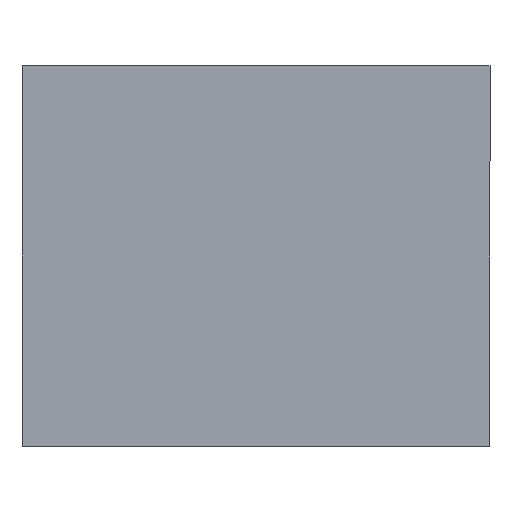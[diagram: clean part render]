
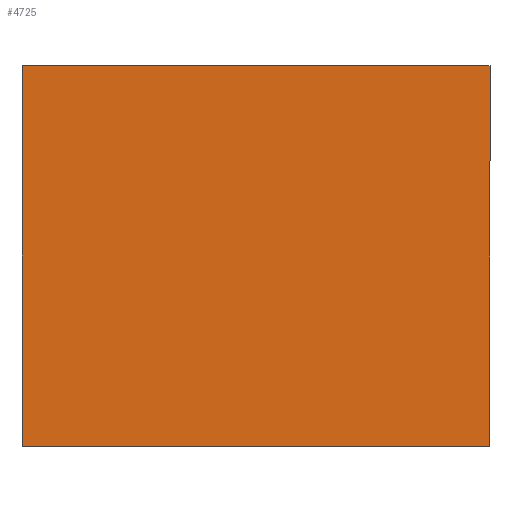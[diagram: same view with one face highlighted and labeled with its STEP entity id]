
A CAD part, front view. The second image highlights one B-rep face of the part: STEP entity #4725.
In plain terms, the highlighted planar face has unit normal (0, -1, 0).
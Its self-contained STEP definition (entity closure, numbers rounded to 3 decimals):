
#66 = LINE ( 'NONE', #2987, #9225 ) ;
#281 = CARTESIAN_POINT ( 'NONE',  ( -157.995, -92.297, 124.775 ) ) ;
#510 = LINE ( 'NONE', #6360, #7991 ) ;
#526 = VERTEX_POINT ( 'NONE', #8281 ) ;
#824 = ORIENTED_EDGE ( 'NONE', *, *, #3046, .T. ) ;
#843 = DIRECTION ( 'NONE',  ( 0., 0., -1. ) ) ;
#1178 = LINE ( 'NONE', #8428, #4785 ) ;
#1634 = EDGE_CURVE ( 'NONE', #8098, #4270, #510, .T. ) ;
#1694 = DIRECTION ( 'NONE',  ( 0., 1., 0. ) ) ;
#2714 = DIRECTION ( 'NONE',  ( 1., 0., 0. ) ) ;
#2952 = AXIS2_PLACEMENT_3D ( 'NONE', #8232, #1694, #4508 ) ;
#2968 = VERTEX_POINT ( 'NONE', #4746 ) ;
#2987 = CARTESIAN_POINT ( 'NONE',  ( -157.995, -92.297, -132.37 ) ) ;
#3025 = PLANE ( 'NONE',  #2952 ) ;
#3046 = EDGE_CURVE ( 'NONE', #2968, #8098, #66, .T. ) ;
#3236 = LINE ( 'NONE', #281, #4026 ) ;
#4026 = VECTOR ( 'NONE', #7647, 1000. ) ;
#4270 = VERTEX_POINT ( 'NONE', #4337 ) ;
#4291 = ORIENTED_EDGE ( 'NONE', *, *, #1634, .T. ) ;
#4337 = CARTESIAN_POINT ( 'NONE',  ( 157.995, -92.297, -132.37 ) ) ;
#4508 = DIRECTION ( 'NONE',  ( 0., 0., 1. ) ) ;
#4725 = ADVANCED_FACE ( 'NONE', ( #8906 ), #3025, .F. ) ;
#4746 = CARTESIAN_POINT ( 'NONE',  ( -157.995, -92.297, 124.775 ) ) ;
#4785 = VECTOR ( 'NONE', #6139, 1000. ) ;
#4873 = ORIENTED_EDGE ( 'NONE', *, *, #5897, .T. ) ;
#5897 = EDGE_CURVE ( 'NONE', #4270, #526, #1178, .T. ) ;
#6139 = DIRECTION ( 'NONE',  ( 0., 0., 1. ) ) ;
#6360 = CARTESIAN_POINT ( 'NONE',  ( -157.995, -92.297, -132.37 ) ) ;
#6877 = CARTESIAN_POINT ( 'NONE',  ( -157.995, -92.297, -132.37 ) ) ;
#7640 = ORIENTED_EDGE ( 'NONE', *, *, #7906, .T. ) ;
#7647 = DIRECTION ( 'NONE',  ( -1., 0., 0. ) ) ;
#7906 = EDGE_CURVE ( 'NONE', #526, #2968, #3236, .T. ) ;
#7991 = VECTOR ( 'NONE', #2714, 1000. ) ;
#8098 = VERTEX_POINT ( 'NONE', #6877 ) ;
#8232 = CARTESIAN_POINT ( 'NONE',  ( 0., -92.297, 0. ) ) ;
#8281 = CARTESIAN_POINT ( 'NONE',  ( 157.995, -92.297, 124.775 ) ) ;
#8428 = CARTESIAN_POINT ( 'NONE',  ( 157.995, -92.297, -132.37 ) ) ;
#8906 = FACE_OUTER_BOUND ( 'NONE', #9465, .T. ) ;
#9225 = VECTOR ( 'NONE', #843, 1000. ) ;
#9465 = EDGE_LOOP ( 'NONE', ( #824, #4291, #4873, #7640 ) ) ;
